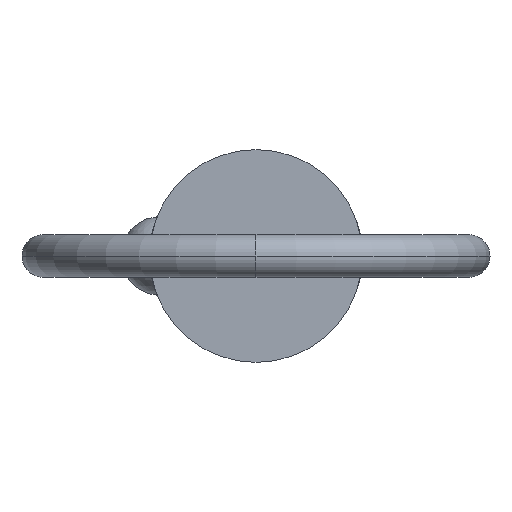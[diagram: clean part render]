
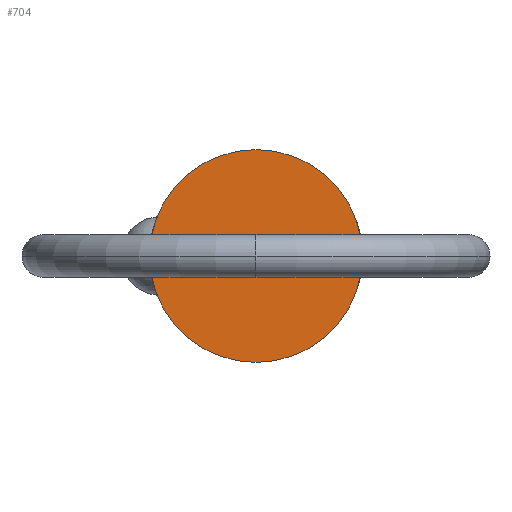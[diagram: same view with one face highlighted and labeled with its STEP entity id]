
A CAD part, left-side view. The second image highlights one B-rep face of the part: STEP entity #704.
In plain terms, the highlighted planar face has unit normal (-1, 0, 0).
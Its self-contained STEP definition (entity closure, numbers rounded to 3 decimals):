
#71 = VERTEX_POINT ( 'NONE', #809 ) ;
#110 = CARTESIAN_POINT ( 'NONE',  ( 0., 0., 0. ) ) ;
#181 = CIRCLE ( 'NONE', #336, 7.94 ) ;
#193 = CIRCLE ( 'NONE', #306, 7.94 ) ;
#239 = PLANE ( 'NONE',  #610 ) ;
#306 = AXIS2_PLACEMENT_3D ( 'NONE', #110, #385, #801 ) ;
#336 = AXIS2_PLACEMENT_3D ( 'NONE', #629, #551, #834 ) ;
#385 = DIRECTION ( 'NONE',  ( 1., 0., 0. ) ) ;
#428 = EDGE_CURVE ( 'NONE', #803, #71, #193, .T. ) ;
#503 = ORIENTED_EDGE ( 'NONE', *, *, #428, .F. ) ;
#508 = ORIENTED_EDGE ( 'NONE', *, *, #583, .F. ) ;
#527 = DIRECTION ( 'NONE',  ( 0., 0., 1. ) ) ;
#551 = DIRECTION ( 'NONE',  ( 1., 0., 0. ) ) ;
#583 = EDGE_CURVE ( 'NONE', #71, #803, #181, .T. ) ;
#599 = CARTESIAN_POINT ( 'NONE',  ( 0., 0., 0. ) ) ;
#610 = AXIS2_PLACEMENT_3D ( 'NONE', #599, #741, #527 ) ;
#629 = CARTESIAN_POINT ( 'NONE',  ( 0., 0., 0. ) ) ;
#646 = FACE_OUTER_BOUND ( 'NONE', #870, .T. ) ;
#704 = ADVANCED_FACE ( 'NONE', ( #646 ), #239, .T. ) ;
#741 = DIRECTION ( 'NONE',  ( -1., 0., 0. ) ) ;
#801 = DIRECTION ( 'NONE',  ( 0., 0., -1. ) ) ;
#803 = VERTEX_POINT ( 'NONE', #815 ) ;
#809 = CARTESIAN_POINT ( 'NONE',  ( 0., 0., -7.94 ) ) ;
#815 = CARTESIAN_POINT ( 'NONE',  ( 0., 0., 7.94 ) ) ;
#834 = DIRECTION ( 'NONE',  ( 0., 0., -1. ) ) ;
#870 = EDGE_LOOP ( 'NONE', ( #508, #503 ) ) ;
